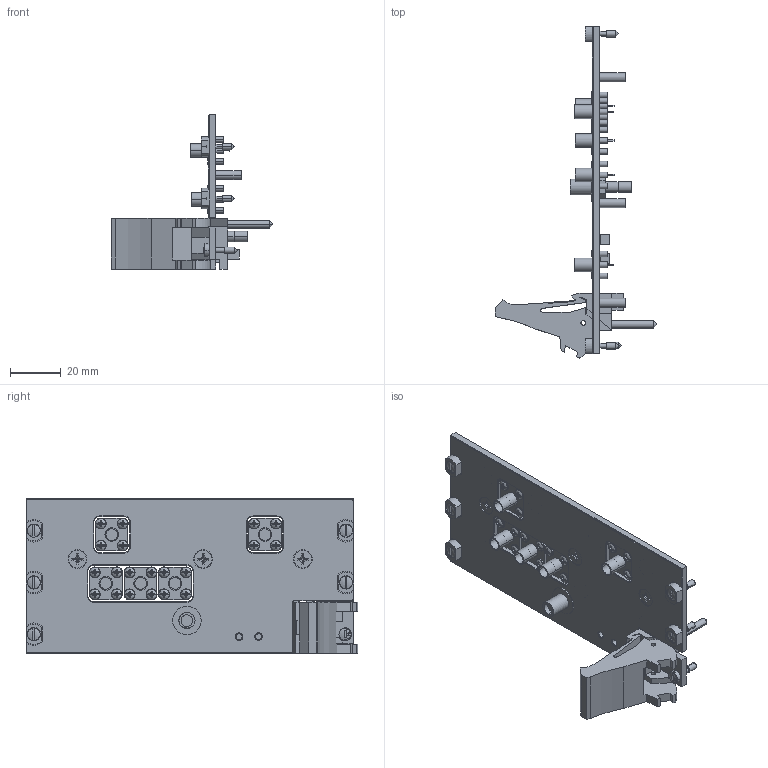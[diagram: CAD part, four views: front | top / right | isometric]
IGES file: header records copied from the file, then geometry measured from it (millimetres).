
Start section:  PTC IGES file: cu_pxi-5600.igs
Global section: file name: cu_pxi-5600.igs; native system: Pro/ENGINEER by Parametric Technology Corporation; preprocessor: 2006080; author: jjorden; organization: Unknown; date: 091230.121840; units: inch
Bounding box: 63.53 x 130.31 x 60.66 mm (x, y, z)
Surface area: 28069.2 mm2 (no closed solid volume)
Topology: 0 solids, 0 shells, 1800 faces, 8740 edges, 8264 vertices
Faces by surface type: bspline 1298, revolution 502
